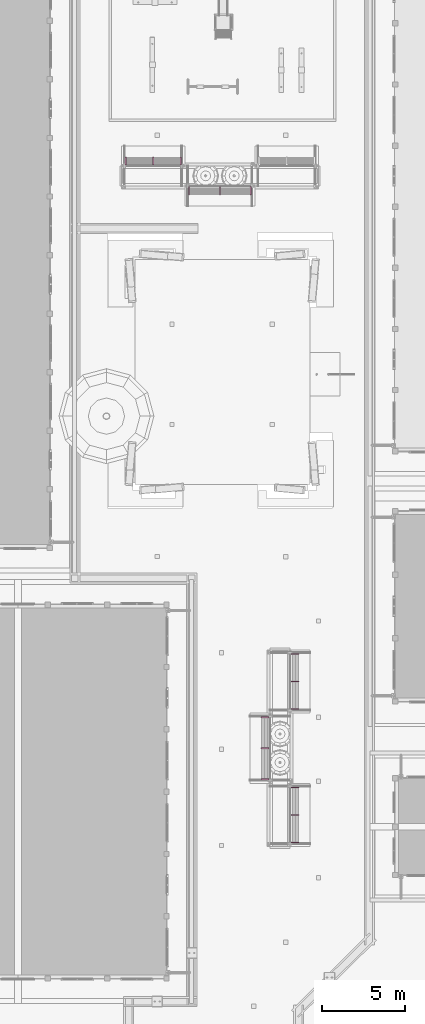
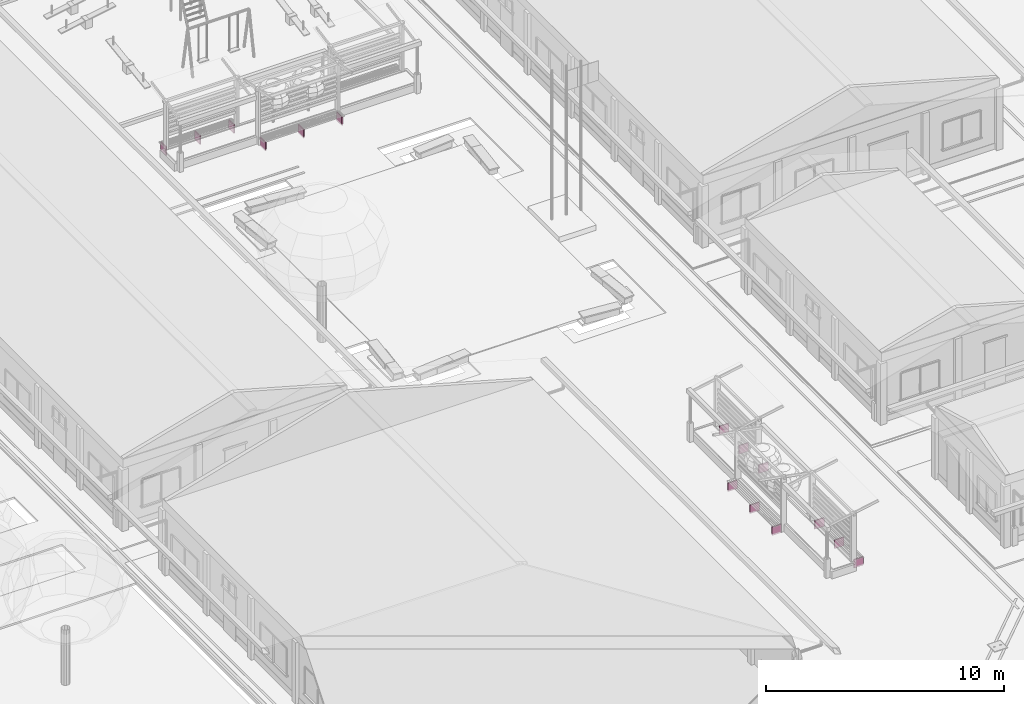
# One storey, part 149 of 177: 15 furnishings.
"""IFC4 building model written with IfcOpenShell, lengths in metres."""

from ifc_helpers import new_model, si_unit, origin, origin_with_axes, place, context, subcontext, project, spatial, triangles, element, save


model = new_model("IFC4")

# Units and contexts
model_context = context("Model", 3, precision=1e-05, world=origin_with_axes())
body_context = subcontext(model_context, "Body", "Model", "MODEL_VIEW")
ifc_project = project(units=[si_unit("LENGTHUNIT", "METRE"), si_unit("AREAUNIT", "SQUARE_METRE"), si_unit("VOLUMEUNIT", "CUBIC_METRE"), si_unit("PLANEANGLEUNIT", "RADIAN")], contexts=[model_context])

# Site, building, storey
site_placement = place(None, origin_with_axes())
site = spatial("IfcSite", under=ifc_project, at=site_placement, Name="Predio Los Mangos - Morales, San Martín", CompositionType="ELEMENT")
building_placement = place(site_placement, origin())
building = spatial("IfcBuilding", under=site, at=building_placement, Name="Hogar de Refugio Temporal", CompositionType="ELEMENT")
storey_placement = place(building_placement, origin())
storey = spatial("IfcBuildingStorey", under=building, at=storey_placement, Name="NIVEL 1 (NPT +0.00)", CompositionType="ELEMENT", Elevation=0.0)

# Furnishings
furnishing_1_placement = place(storey_placement, origin())
element("IfcFurnishingElement", 1, at=furnishing_1_placement, inside=storey, Name="oc01_pata", ObjectType="Mobiliario exterior / juegos", context=body_context, shape_type="Tessellation", body=[
    triangles([(39.52, 34.43, 0.0), (39.52, 34.48, 0.0), (39.06, 34.48, 0.0), (39.06, 34.43, 0.0), (39.52, 34.43, 0.44), (39.52, 34.48, 0.44), (39.06, 34.48, 0.44), (39.06, 34.43, 0.44)], [[1, 4, 3], [1, 3, 2], [5, 6, 7], [5, 7, 8], [1, 2, 6], [1, 6, 5], [2, 3, 7], [2, 7, 6], [3, 4, 8], [3, 8, 7], [4, 1, 5], [4, 5, 8]]),
])
furnishing_2_placement = place(storey_placement, origin())
element("IfcFurnishingElement", 2, at=furnishing_2_placement, inside=storey, Name="oc01_pata", ObjectType="Mobiliario exterior / juegos", context=body_context, shape_type="Tessellation", body=[
    triangles([(39.52, 36.075, 0.0), (39.52, 36.125, 0.0), (39.06, 36.125, 0.0), (39.06, 36.075, 0.0), (39.52, 36.075, 0.44), (39.52, 36.125, 0.44), (39.06, 36.125, 0.44), (39.06, 36.075, 0.44)], [[1, 4, 3], [1, 3, 2], [5, 6, 7], [5, 7, 8], [1, 2, 6], [1, 6, 5], [2, 3, 7], [2, 7, 6], [3, 4, 8], [3, 8, 7], [4, 1, 5], [4, 5, 8]]),
])
furnishing_3_placement = place(storey_placement, origin())
element("IfcFurnishingElement", 3, at=furnishing_3_placement, inside=storey, Name="oc01_pata", ObjectType="Mobiliario exterior / juegos", context=body_context, shape_type="Tessellation", body=[
    triangles([(39.52, 37.72, 0.0), (39.52, 37.77, 0.0), (39.06, 37.77, 0.0), (39.06, 37.72, 0.0), (39.52, 37.72, 0.44), (39.52, 37.77, 0.44), (39.06, 37.77, 0.44), (39.06, 37.72, 0.44)], [[1, 4, 3], [1, 3, 2], [5, 6, 7], [5, 7, 8], [1, 2, 6], [1, 6, 5], [2, 3, 7], [2, 7, 6], [3, 4, 8], [3, 8, 7], [4, 1, 5], [4, 5, 8]]),
])
furnishing_4_placement = place(storey_placement, origin())
element("IfcFurnishingElement", 4, at=furnishing_4_placement, inside=storey, Name="oc01_pata", ObjectType="Mobiliario exterior / juegos", context=body_context, shape_type="Tessellation", body=[
    triangles([(37.74, 38.22, 0.0), (37.74, 38.27, 0.0), (37.28, 38.27, 0.0), (37.28, 38.22, 0.0), (37.74, 38.22, 0.44), (37.74, 38.27, 0.44), (37.28, 38.27, 0.44), (37.28, 38.22, 0.44)], [[1, 4, 3], [1, 3, 2], [5, 6, 7], [5, 7, 8], [1, 2, 6], [1, 6, 5], [2, 3, 7], [2, 7, 6], [3, 4, 8], [3, 8, 7], [4, 1, 5], [4, 5, 8]]),
])
furnishing_5_placement = place(storey_placement, origin())
element("IfcFurnishingElement", 5, at=furnishing_5_placement, inside=storey, Name="oc01_pata", ObjectType="Mobiliario exterior / juegos", context=body_context, shape_type="Tessellation", body=[
    triangles([(37.74, 40.075, 0.0), (37.74, 40.125, 0.0), (37.28, 40.125, 0.0), (37.28, 40.075, 0.0), (37.74, 40.075, 0.44), (37.74, 40.125, 0.44), (37.28, 40.125, 0.44), (37.28, 40.075, 0.44)], [[1, 4, 3], [1, 3, 2], [5, 6, 7], [5, 7, 8], [1, 2, 6], [1, 6, 5], [2, 3, 7], [2, 7, 6], [3, 4, 8], [3, 8, 7], [4, 1, 5], [4, 5, 8]]),
])
furnishing_6_placement = place(storey_placement, origin())
element("IfcFurnishingElement", 6, at=furnishing_6_placement, inside=storey, Name="oc01_pata", ObjectType="Mobiliario exterior / juegos", context=body_context, shape_type="Tessellation", body=[
    triangles([(37.74, 41.93, 0.0), (37.74, 41.98, 0.0), (37.28, 41.98, 0.0), (37.28, 41.93, 0.0), (37.74, 41.93, 0.44), (37.74, 41.98, 0.44), (37.28, 41.98, 0.44), (37.28, 41.93, 0.44)], [[1, 4, 3], [1, 3, 2], [5, 6, 7], [5, 7, 8], [1, 2, 6], [1, 6, 5], [2, 3, 7], [2, 7, 6], [3, 4, 8], [3, 8, 7], [4, 1, 5], [4, 5, 8]]),
])
furnishing_7_placement = place(storey_placement, origin())
element("IfcFurnishingElement", 7, at=furnishing_7_placement, inside=storey, Name="oc01_pata", ObjectType="Mobiliario exterior / juegos", context=body_context, shape_type="Tessellation", body=[
    triangles([(39.52, 42.43, 0.0), (39.52, 42.48, 0.0), (39.06, 42.48, 0.0), (39.06, 42.43, 0.0), (39.52, 42.43, 0.44), (39.52, 42.48, 0.44), (39.06, 42.48, 0.44), (39.06, 42.43, 0.44)], [[1, 4, 3], [1, 3, 2], [5, 6, 7], [5, 7, 8], [1, 2, 6], [1, 6, 5], [2, 3, 7], [2, 7, 6], [3, 4, 8], [3, 8, 7], [4, 1, 5], [4, 5, 8]]),
])
furnishing_8_placement = place(storey_placement, origin())
element("IfcFurnishingElement", 8, at=furnishing_8_placement, inside=storey, Name="oc01_pata", ObjectType="Mobiliario exterior / juegos", context=body_context, shape_type="Tessellation", body=[
    triangles([(39.52, 44.075, 0.0), (39.52, 44.125, 0.0), (39.06, 44.125, 0.0), (39.06, 44.075, 0.0), (39.52, 44.075, 0.44), (39.52, 44.125, 0.44), (39.06, 44.125, 0.44), (39.06, 44.075, 0.44)], [[1, 4, 3], [1, 3, 2], [5, 6, 7], [5, 7, 8], [1, 2, 6], [1, 6, 5], [2, 3, 7], [2, 7, 6], [3, 4, 8], [3, 8, 7], [4, 1, 5], [4, 5, 8]]),
])
furnishing_9_placement = place(storey_placement, origin())
element("IfcFurnishingElement", 9, at=furnishing_9_placement, inside=storey, Name="oc01_pata", ObjectType="Mobiliario exterior / juegos", context=body_context, shape_type="Tessellation", body=[
    triangles([(39.52, 45.72, 0.0), (39.52, 45.77, 0.0), (39.06, 45.77, 0.0), (39.06, 45.72, 0.0), (39.52, 45.72, 0.44), (39.52, 45.77, 0.44), (39.06, 45.77, 0.44), (39.06, 45.72, 0.44)], [[1, 4, 3], [1, 3, 2], [5, 6, 7], [5, 7, 8], [1, 2, 6], [1, 6, 5], [2, 3, 7], [2, 7, 6], [3, 4, 8], [3, 8, 7], [4, 1, 5], [4, 5, 8]]),
])
furnishing_10_placement = place(storey_placement, origin())
element("IfcFurnishingElement", 10, at=furnishing_10_placement, inside=storey, Name="oc01_pata", ObjectType="Mobiliario exterior / juegos", context=body_context, shape_type="Tessellation", body=[
    triangles([(36.68, 73.74, 0.0), (36.63, 73.74, 0.0), (36.63, 73.28, 0.0), (36.68, 73.28, 0.0), (36.68, 73.74, 0.44), (36.63, 73.74, 0.44), (36.63, 73.28, 0.44), (36.68, 73.28, 0.44)], [[1, 4, 3], [1, 3, 2], [5, 6, 7], [5, 7, 8], [1, 2, 6], [1, 6, 5], [2, 3, 7], [2, 7, 6], [3, 4, 8], [3, 8, 7], [4, 1, 5], [4, 5, 8]]),
])
furnishing_11_placement = place(storey_placement, origin())
element("IfcFurnishingElement", 11, at=furnishing_11_placement, inside=storey, Name="oc01_pata", ObjectType="Mobiliario exterior / juegos", context=body_context, shape_type="Tessellation", body=[
    triangles([(34.825, 73.74, 0.0), (34.775, 73.74, 0.0), (34.775, 73.28, 0.0), (34.825, 73.28, 0.0), (34.825, 73.74, 0.44), (34.775, 73.74, 0.44), (34.775, 73.28, 0.44), (34.825, 73.28, 0.44)], [[1, 4, 3], [1, 3, 2], [5, 6, 7], [5, 7, 8], [1, 2, 6], [1, 6, 5], [2, 3, 7], [2, 7, 6], [3, 4, 8], [3, 8, 7], [4, 1, 5], [4, 5, 8]]),
])
furnishing_12_placement = place(storey_placement, origin())
element("IfcFurnishingElement", 12, at=furnishing_12_placement, inside=storey, Name="oc01_pata", ObjectType="Mobiliario exterior / juegos", context=body_context, shape_type="Tessellation", body=[
    triangles([(32.97, 73.74, 0.0), (32.92, 73.74, 0.0), (32.92, 73.28, 0.0), (32.97, 73.28, 0.0), (32.97, 73.74, 0.44), (32.92, 73.74, 0.44), (32.92, 73.28, 0.44), (32.97, 73.28, 0.44)], [[1, 4, 3], [1, 3, 2], [5, 6, 7], [5, 7, 8], [1, 2, 6], [1, 6, 5], [2, 3, 7], [2, 7, 6], [3, 4, 8], [3, 8, 7], [4, 1, 5], [4, 5, 8]]),
])
furnishing_13_placement = place(storey_placement, origin())
element("IfcFurnishingElement", 13, at=furnishing_13_placement, inside=storey, Name="oc01_pata", ObjectType="Mobiliario exterior / juegos", context=body_context, shape_type="Tessellation", body=[
    triangles([(32.47, 75.52, 0.0), (32.42, 75.52, 0.0), (32.42, 75.06, 0.0), (32.47, 75.06, 0.0), (32.47, 75.52, 0.44), (32.42, 75.52, 0.44), (32.42, 75.06, 0.44), (32.47, 75.06, 0.44)], [[1, 4, 3], [1, 3, 2], [5, 6, 7], [5, 7, 8], [1, 2, 6], [1, 6, 5], [2, 3, 7], [2, 7, 6], [3, 4, 8], [3, 8, 7], [4, 1, 5], [4, 5, 8]]),
])
furnishing_14_placement = place(storey_placement, origin())
element("IfcFurnishingElement", 14, at=furnishing_14_placement, inside=storey, Name="oc01_pata", ObjectType="Mobiliario exterior / juegos", context=body_context, shape_type="Tessellation", body=[
    triangles([(30.825, 75.52, 0.0), (30.775, 75.52, 0.0), (30.775, 75.06, 0.0), (30.825, 75.06, 0.0), (30.825, 75.52, 0.44), (30.775, 75.52, 0.44), (30.775, 75.06, 0.44), (30.825, 75.06, 0.44)], [[1, 4, 3], [1, 3, 2], [5, 6, 7], [5, 7, 8], [1, 2, 6], [1, 6, 5], [2, 3, 7], [2, 7, 6], [3, 4, 8], [3, 8, 7], [4, 1, 5], [4, 5, 8]]),
])
furnishing_15_placement = place(storey_placement, origin())
element("IfcFurnishingElement", 15, at=furnishing_15_placement, inside=storey, Name="oc01_pata", ObjectType="Mobiliario exterior / juegos", context=body_context, shape_type="Tessellation", body=[
    triangles([(29.18, 75.52, 0.0), (29.13, 75.52, 0.0), (29.13, 75.06, 0.0), (29.18, 75.06, 0.0), (29.18, 75.52, 0.44), (29.13, 75.52, 0.44), (29.13, 75.06, 0.44), (29.18, 75.06, 0.44)], [[1, 4, 3], [1, 3, 2], [5, 6, 7], [5, 7, 8], [1, 2, 6], [1, 6, 5], [2, 3, 7], [2, 7, 6], [3, 4, 8], [3, 8, 7], [4, 1, 5], [4, 5, 8]]),
])

save(model, "model.ifc")
